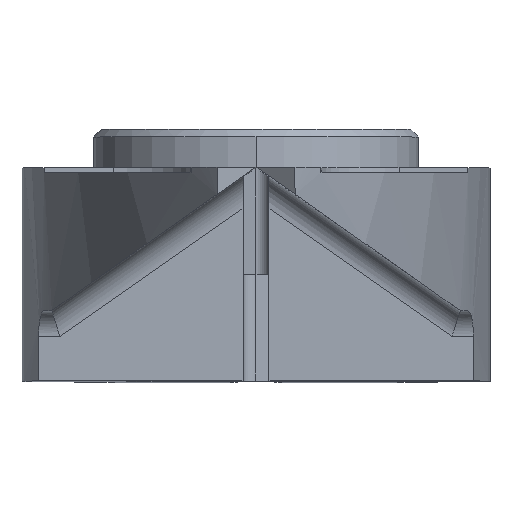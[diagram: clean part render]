
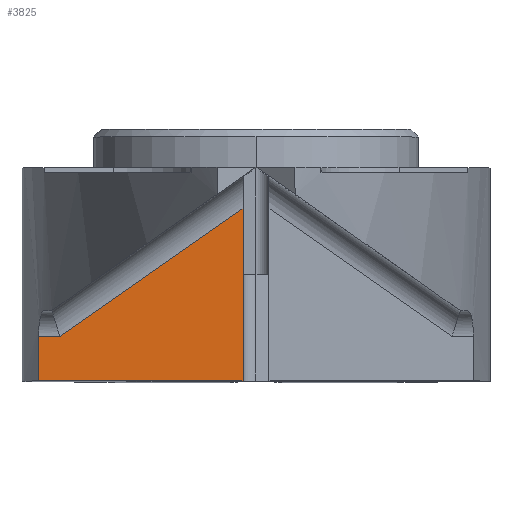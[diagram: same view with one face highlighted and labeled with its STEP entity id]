
A CAD part, top view. The second image highlights one B-rep face of the part: STEP entity #3825.
In plain terms, the highlighted planar face has unit normal (0, 0, 1).
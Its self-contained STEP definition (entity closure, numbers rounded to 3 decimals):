
#97 = VECTOR ( 'NONE', #2570, 1000. ) ;
#147 = CARTESIAN_POINT ( 'NONE',  ( -4.431, 1.7, 12. ) ) ;
#308 = ORIENTED_EDGE ( 'NONE', *, *, #4034, .T. ) ;
#348 = LINE ( 'NONE', #2042, #4048 ) ;
#380 = EDGE_CURVE ( 'NONE', #1100, #3777, #348, .T. ) ;
#619 = ORIENTED_EDGE ( 'NONE', *, *, #3783, .F. ) ;
#740 = DIRECTION ( 'NONE',  ( 1., 0., 0. ) ) ;
#751 = VECTOR ( 'NONE', #2715, 1000. ) ;
#803 = EDGE_LOOP ( 'NONE', ( #1210, #2143, #1325, #308, #619 ) ) ;
#1100 = VERTEX_POINT ( 'NONE', #1548 ) ;
#1210 = ORIENTED_EDGE ( 'NONE', *, *, #2794, .F. ) ;
#1325 = ORIENTED_EDGE ( 'NONE', *, *, #2819, .T. ) ;
#1546 = AXIS2_PLACEMENT_3D ( 'NONE', #2474, #2837, #740 ) ;
#1548 = CARTESIAN_POINT ( 'NONE',  ( -0.5, 0., 12. ) ) ;
#1636 = DIRECTION ( 'NONE',  ( 0., 1., 0. ) ) ;
#1927 = VERTEX_POINT ( 'NONE', #3314 ) ;
#1986 = CARTESIAN_POINT ( 'NONE',  ( -0.5, 6.629, 12. ) ) ;
#2042 = CARTESIAN_POINT ( 'NONE',  ( -0.5, 3.315, 12. ) ) ;
#2046 = VERTEX_POINT ( 'NONE', #4301 ) ;
#2105 = DIRECTION ( 'NONE',  ( 0., 1., 0. ) ) ;
#2143 = ORIENTED_EDGE ( 'NONE', *, *, #380, .T. ) ;
#2474 = CARTESIAN_POINT ( 'NONE',  ( -9.149, -0.663, 12. ) ) ;
#2525 = VERTEX_POINT ( 'NONE', #2713 ) ;
#2570 = DIRECTION ( 'NONE',  ( -1., 0., 0. ) ) ;
#2705 = LINE ( 'NONE', #4085, #3617 ) ;
#2713 = CARTESIAN_POINT ( 'NONE',  ( -8.362, 1.7, 12. ) ) ;
#2715 = DIRECTION ( 'NONE',  ( -1., 0., 0. ) ) ;
#2717 = LINE ( 'NONE', #3749, #751 ) ;
#2794 = EDGE_CURVE ( 'NONE', #1100, #1927, #2717, .T. ) ;
#2819 = EDGE_CURVE ( 'NONE', #3777, #2046, #4479, .T. ) ;
#2837 = DIRECTION ( 'NONE',  ( 0., 0., 1. ) ) ;
#3314 = CARTESIAN_POINT ( 'NONE',  ( -8.362, 0., 12. ) ) ;
#3405 = CARTESIAN_POINT ( 'NONE',  ( -0.5, 6.629, 12. ) ) ;
#3521 = FACE_OUTER_BOUND ( 'NONE', #803, .T. ) ;
#3617 = VECTOR ( 'NONE', #1636, 1000. ) ;
#3749 = CARTESIAN_POINT ( 'NONE',  ( 0., 0., 12. ) ) ;
#3777 = VERTEX_POINT ( 'NONE', #1986 ) ;
#3783 = EDGE_CURVE ( 'NONE', #1927, #2525, #2705, .T. ) ;
#3798 = LINE ( 'NONE', #147, #97 ) ;
#3825 = ADVANCED_FACE ( 'NONE', ( #3521 ), #3871, .T. ) ;
#3871 = PLANE ( 'NONE',  #1546 ) ;
#4034 = EDGE_CURVE ( 'NONE', #2046, #2525, #3798, .T. ) ;
#4048 = VECTOR ( 'NONE', #2105, 1000. ) ;
#4085 = CARTESIAN_POINT ( 'NONE',  ( -8.362, 4.1, 12. ) ) ;
#4254 = VECTOR ( 'NONE', #4484, 1000. ) ;
#4301 = CARTESIAN_POINT ( 'NONE',  ( -7.54, 1.7, 12. ) ) ;
#4479 = LINE ( 'NONE', #3405, #4254 ) ;
#4484 = DIRECTION ( 'NONE',  ( -0.819, -0.574, 0. ) ) ;
